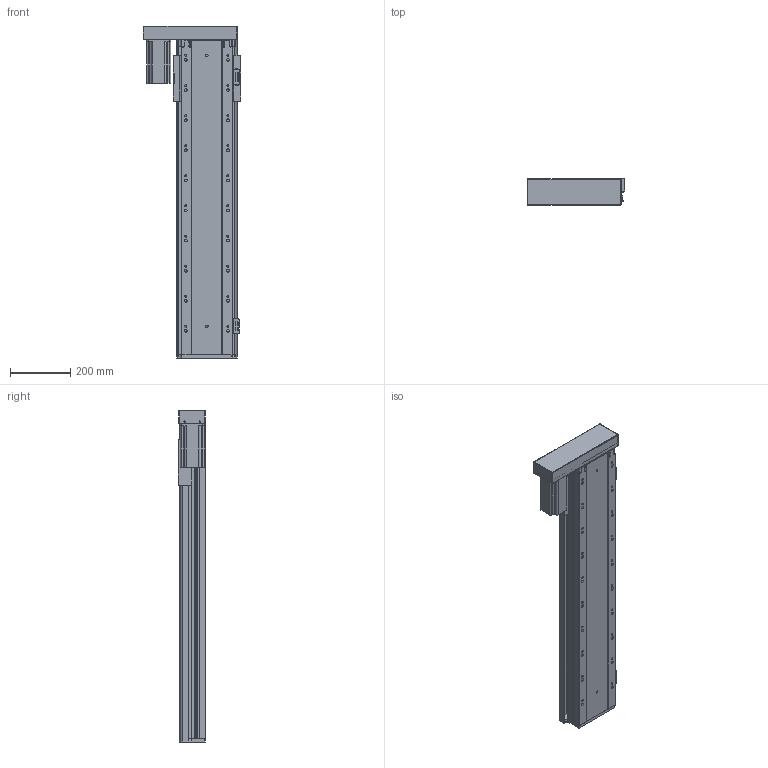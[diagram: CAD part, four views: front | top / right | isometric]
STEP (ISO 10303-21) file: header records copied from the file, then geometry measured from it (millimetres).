
FILE_DESCRIPTION (( 'STEP AP203' ), '1' );
FILE_NAME ('RY170FB-L2020-300-LK.SLDASM_800.step', '2021-02-23T03:02:47', ( '盈信电脑' ), ( '东莞市道滘镇水果街19号' ), 'SwSTEP 2.0', 'SolidWorks 2012', '' );
FILE_SCHEMA (( 'CONFIG_CONTROL_DESIGN' ));
Length unit declared in the file: millimetre
Products named in the file (16): RY170FB-L2020-300-LK.SLDASM_800; RY140-674嫖萇耀輸; RY140FB-674嫖萇覜茼え; RY170FB-酘衵殏萇儂欶750W; RY170FB-左右折电机安装板750W; RY140直线电机感应器674光电安装座; 覜茼ん674; RY170FB-300蛌殏奻裔-LK_800; RY170FB-綴裔啣; RY170FB-铝滑块(25丝杆）; 怢湛750W萇儂ㄗ80遺ㄘ; RY170FB-300蛌殏倰第菁釱-LK_800; 滅袉蝶18-28; 滅袉蝶18-10; RY170FB-转折电机端支撑座(7002)
Assembly tree (18 placements, depth 3):
  RY170FB-L2020-300-LK.SLDASM_800
    RY170FB-300蛌殏倰第菁釱-LK_800
    滅袉蝶18-28
    滅袉蝶18-10
    RY170FB-转折电机端支撑座(7002)
    怢湛750W萇儂ㄗ80遺ㄘ
    RY170FB-铝滑块(25丝杆）
    RY170FB-綴裔啣
    RY170FB-300蛌殏奻裔-LK_800
    RY140-674嫖萇耀輸
      覜茼ん674  x2
      RY140直线电机感应器674光电安装座
    RY140-674嫖萇耀輸
      覜茼ん674
      RY140直线电机感应器674光电安装座
    RY140FB-674嫖萇覜茼え
    RY170FB-左右折电机安装板750W
    RY170FB-酘衵殏萇儂欶750W
Bounding box: 323.95 x 90.5 x 1102.7 mm (x, y, z)
Volume: 6990977.4 mm3; surface area: 2026098.3 mm2
Topology: 16 solids, 16 shells, 1661 faces, 4782 edges, 3042 vertices
Faces by surface type: cylinder 897, plane 596, cone 160, bspline 8
Entity records: 54071 total; most frequent: CARTESIAN_POINT 13471, ORIENTED_EDGE 8296, DIRECTION 7924, EDGE_CURVE 4148, AXIS2_PLACEMENT_3D 2897, VERTEX_POINT 2722, VECTOR 2130, LINE 2130
